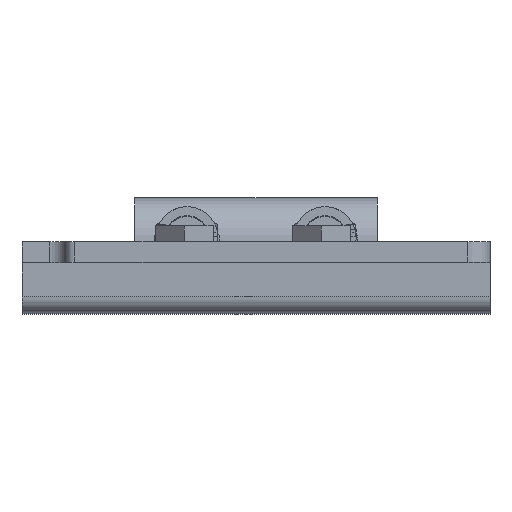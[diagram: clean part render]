
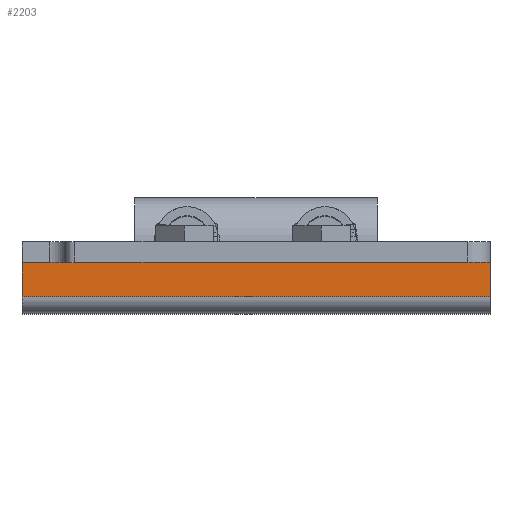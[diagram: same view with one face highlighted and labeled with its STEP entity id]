
A CAD part, top view. The second image highlights one B-rep face of the part: STEP entity #2203.
In plain terms, the highlighted planar face has unit normal (0, 0, 1).
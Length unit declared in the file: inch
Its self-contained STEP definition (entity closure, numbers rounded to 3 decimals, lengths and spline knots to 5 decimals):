
#2015=DIRECTION('',(0.,-1.,0.));
#2016=VECTOR('',#2015,0.03);
#2017=CARTESIAN_POINT('',(0.2075,-0.0182,3.1452));
#2018=LINE('',#2017,#2016);
#2028=DIRECTION('',(-1.,0.,0.));
#2029=VECTOR('',#2028,0.415);
#2030=CARTESIAN_POINT('',(0.2075,-0.0482,3.1452));
#2031=LINE('',#2030,#2029);
#2032=DIRECTION('',(0.,-1.,0.));
#2033=VECTOR('',#2032,0.03);
#2034=CARTESIAN_POINT('',(-0.2075,-0.0182,3.1452));
#2035=LINE('',#2034,#2033);
#2036=DIRECTION('',(1.,0.,0.));
#2037=VECTOR('',#2036,0.415);
#2038=CARTESIAN_POINT('',(-0.2075,-0.0182,3.1452));
#2039=LINE('',#2038,#2037);
#2053=CARTESIAN_POINT('',(-0.2075,-0.0182,3.1452));
#2055=VERTEX_POINT('',#2053);
#2056=CARTESIAN_POINT('',(0.2075,-0.0182,3.1452));
#2057=VERTEX_POINT('',#2056);
#2061=CARTESIAN_POINT('',(-0.2075,-0.0482,3.1452));
#2063=VERTEX_POINT('',#2061);
#2064=CARTESIAN_POINT('',(0.2075,-0.0482,3.1452));
#2065=VERTEX_POINT('',#2064);
#2191=CARTESIAN_POINT('',(-0.2075,-0.0182,3.1452));
#2192=DIRECTION('',(0.,0.,1.));
#2193=DIRECTION('',(1.,0.,0.));
#2194=AXIS2_PLACEMENT_3D('',#2191,#2192,#2193);
#2195=PLANE('',#2194);
#2196=ORIENTED_EDGE('',*,*,#2106,.T.);
#2197=ORIENTED_EDGE('',*,*,#2134,.F.);
#2199=ORIENTED_EDGE('',*,*,#2198,.T.);
#2200=ORIENTED_EDGE('',*,*,#2173,.T.);
#2201=EDGE_LOOP('',(#2196,#2197,#2199,#2200));
#2202=FACE_OUTER_BOUND('',#2201,.F.);
#2203=ADVANCED_FACE('',(#2202),#2195,.T.);
#2106=EDGE_CURVE('',#2065,#2063,#2031,.T.);
#2134=EDGE_CURVE('',#2055,#2063,#2035,.T.);
#2173=EDGE_CURVE('',#2057,#2065,#2018,.T.);
#2198=EDGE_CURVE('',#2055,#2057,#2039,.T.);
